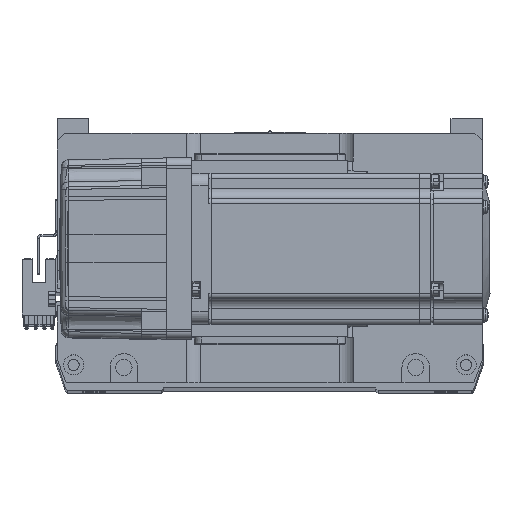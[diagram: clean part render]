
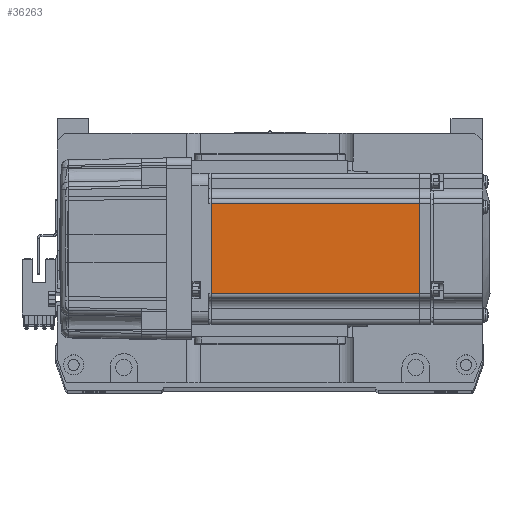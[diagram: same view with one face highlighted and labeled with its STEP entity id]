
A CAD part, top view. The second image highlights one B-rep face of the part: STEP entity #36263.
In plain terms, the highlighted planar face has unit normal (0, 0, 1) as drawn and (0, -1, 0) by its records, which use the part's own axes.
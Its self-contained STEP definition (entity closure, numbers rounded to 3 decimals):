
#111 = CARTESIAN_POINT ( 'NONE',  ( -7.75, -30., 18. ) ) ;
#2317 = EDGE_CURVE ( 'NONE', #33343, #37005, #61102, .T. ) ;
#4957 = CARTESIAN_POINT ( 'NONE',  ( -6.5, -30., -18. ) ) ;
#4971 = CARTESIAN_POINT ( 'NONE',  ( -90.45, -30., -25. ) ) ;
#10691 = EDGE_CURVE ( 'NONE', #52895, #33343, #61662, .T. ) ;
#11031 = ORIENTED_EDGE ( 'NONE', *, *, #2317, .T. ) ;
#13285 = DIRECTION ( 'NONE',  ( -1., 0., 0. ) ) ;
#17989 = FACE_OUTER_BOUND ( 'NONE', #38161, .T. ) ;
#18390 = PLANE ( 'NONE',  #58908 ) ;
#19678 = VECTOR ( 'NONE', #20731, 1000. ) ;
#20731 = DIRECTION ( 'NONE',  ( 0., 0., 1. ) ) ;
#21190 = LINE ( 'NONE', #59185, #19678 ) ;
#22064 = VERTEX_POINT ( 'NONE', #38049 ) ;
#23130 = ORIENTED_EDGE ( 'NONE', *, *, #61694, .T. ) ;
#24038 = DIRECTION ( 'NONE',  ( 0., -1., 0. ) ) ;
#24091 = VECTOR ( 'NONE', #58325, 1000. ) ;
#27568 = CARTESIAN_POINT ( 'NONE',  ( -6.5, -30., 18. ) ) ;
#29308 = DIRECTION ( 'NONE',  ( 0., 0., -1. ) ) ;
#33343 = VERTEX_POINT ( 'NONE', #41363 ) ;
#36263 = ADVANCED_FACE ( 'NONE', ( #17989 ), #18390, .T. ) ;
#36933 = LINE ( 'NONE', #4957, #24091 ) ;
#37005 = VERTEX_POINT ( 'NONE', #48226 ) ;
#38049 = CARTESIAN_POINT ( 'NONE',  ( -7.75, -30., -18. ) ) ;
#38161 = EDGE_LOOP ( 'NONE', ( #43391, #59639, #11031, #23130 ) ) ;
#39202 = VECTOR ( 'NONE', #13285, 1000. ) ;
#39875 = EDGE_CURVE ( 'NONE', #22064, #52895, #21190, .T. ) ;
#41363 = CARTESIAN_POINT ( 'NONE',  ( -90.45, -30., 18. ) ) ;
#43230 = DIRECTION ( 'NONE',  ( 0., 0., -1. ) ) ;
#43391 = ORIENTED_EDGE ( 'NONE', *, *, #39875, .T. ) ;
#46973 = CARTESIAN_POINT ( 'NONE',  ( -6.5, -30., -25. ) ) ;
#48226 = CARTESIAN_POINT ( 'NONE',  ( -90.45, -30., -18. ) ) ;
#49085 = VECTOR ( 'NONE', #29308, 1000. ) ;
#52895 = VERTEX_POINT ( 'NONE', #111 ) ;
#58325 = DIRECTION ( 'NONE',  ( 1., 0., 0. ) ) ;
#58908 = AXIS2_PLACEMENT_3D ( 'NONE', #46973, #24038, #43230 ) ;
#59185 = CARTESIAN_POINT ( 'NONE',  ( -7.75, -30., -25. ) ) ;
#59639 = ORIENTED_EDGE ( 'NONE', *, *, #10691, .T. ) ;
#61102 = LINE ( 'NONE', #4971, #49085 ) ;
#61662 = LINE ( 'NONE', #27568, #39202 ) ;
#61694 = EDGE_CURVE ( 'NONE', #37005, #22064, #36933, .T. ) ;
